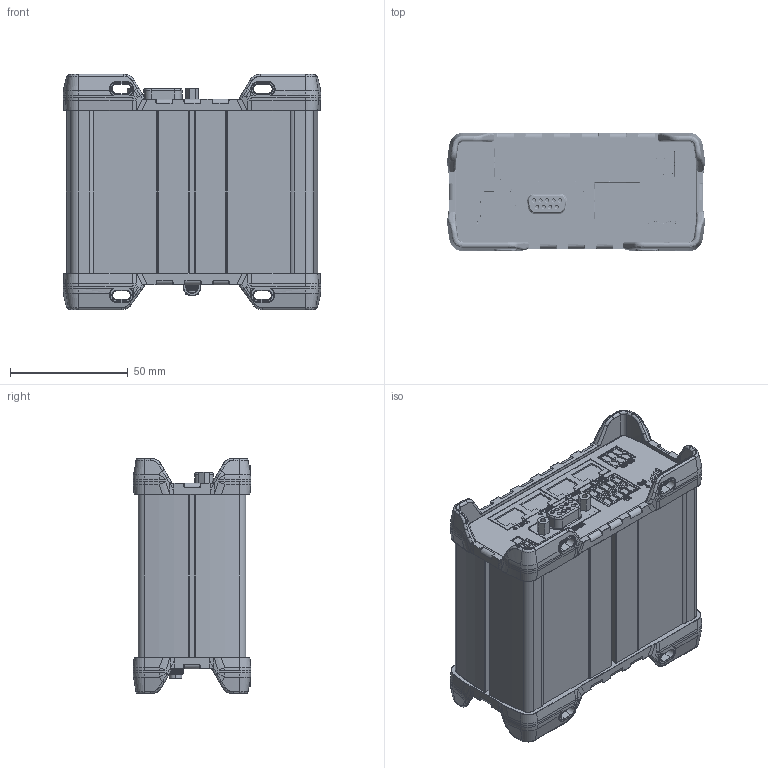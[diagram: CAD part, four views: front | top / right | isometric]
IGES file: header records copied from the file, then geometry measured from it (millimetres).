
Start section: SolidWorks IGES file using analytic representation for surfaces
Global section: file name: Z:\Products\UCR (Router)\UCR-B8\CAD Files\3D Files\UCR-B8.IGS; native system: SolidWorks 2017; preprocessor: SolidWorks 2017; author: LaorB; date: 200420.102810; units: millimetre
Bounding box: 109.61 x 50.11 x 100.1 mm (x, y, z)
Surface area: 45280.4 mm2 (no closed solid volume)
Topology: 0 solids, 0 shells, 4056 faces, 30770 edges, 30585 vertices
Faces by surface type: bspline 3151, revolution 905
